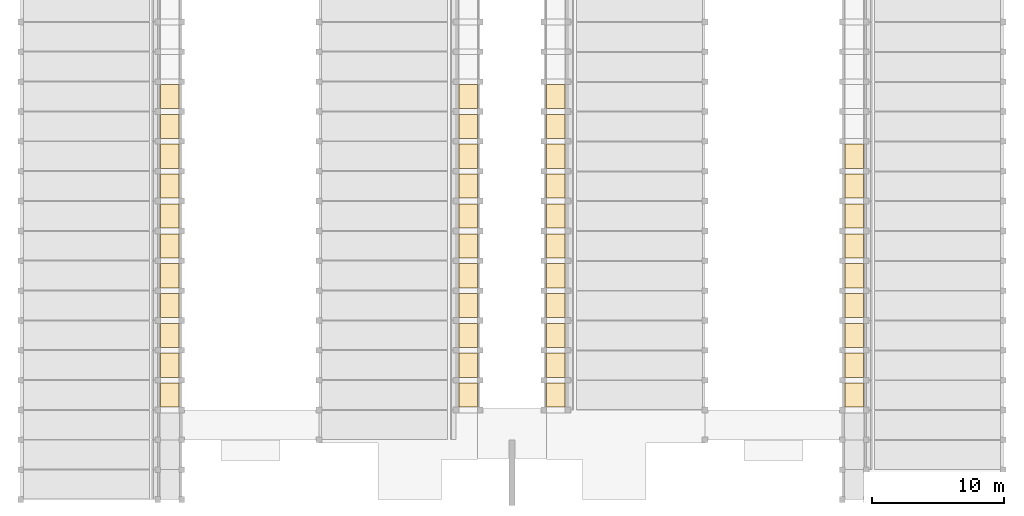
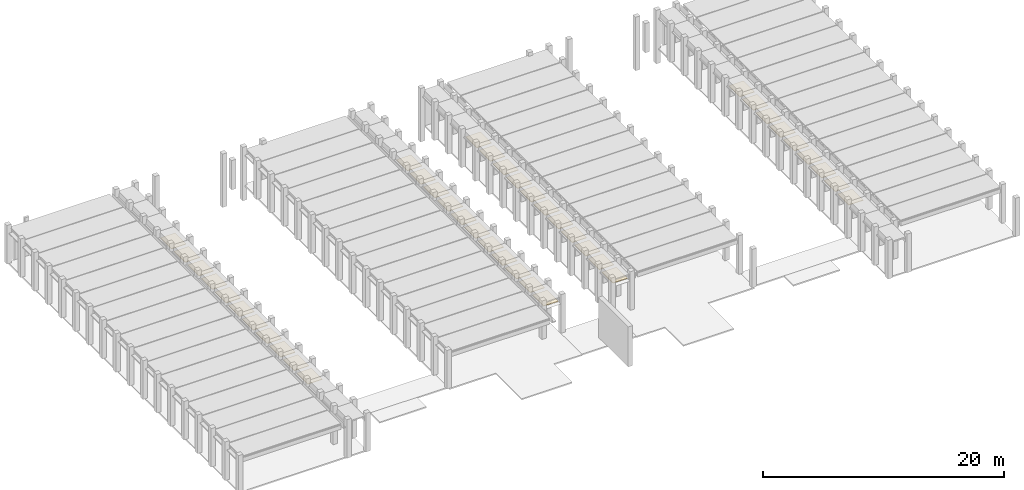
# One storey, part 19 of 21: 42 coverings.
"""IFC2X3 building model written with IfcOpenShell, lengths in millimetres."""

from ifc_helpers import new_model, entity, si_unit, converted_unit, derived_unit, direction, frame, frame_2d, origin, origin_2d_with_axis, place, context, subcontext, project, spatial, rectangle, extrude, material, layer, layer_set, layer_usage, type_object, element, save


model = new_model("IFC2X3")

# Units and contexts
model_context = context("Model", 3, precision=0.01, world=origin(), true_north=direction((6.12303176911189e-17, 1.0)))
body_context = subcontext(model_context, "Body", "Model", "MODEL_VIEW")
ifc_project = project(units=[si_unit("LENGTHUNIT", "METRE", prefix="MILLI"), si_unit("AREAUNIT", "SQUARE_METRE"), si_unit("VOLUMEUNIT", "CUBIC_METRE"), converted_unit("PLANEANGLEUNIT", "DEGREE", entity("IfcRatioMeasure", 0.0174532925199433), si_unit("PLANEANGLEUNIT", "RADIAN"), dimensions=[0, 0, 0, 0, 0, 0, 0]), si_unit("MASSUNIT", "GRAM", prefix="KILO"), derived_unit("MASSDENSITYUNIT", [(si_unit("MASSUNIT", "GRAM", prefix="KILO"), 1), (si_unit("LENGTHUNIT", "METRE"), -3)]), derived_unit("MOMENTOFINERTIAUNIT", [(si_unit("LENGTHUNIT", "METRE"), 4)]), si_unit("TIMEUNIT", "SECOND"), si_unit("FREQUENCYUNIT", "HERTZ"), si_unit("THERMODYNAMICTEMPERATUREUNIT", "DEGREE_CELSIUS"), derived_unit("THERMALTRANSMITTANCEUNIT", [(si_unit("MASSUNIT", "GRAM", prefix="KILO"), 1), (si_unit("THERMODYNAMICTEMPERATUREUNIT", "KELVIN"), -1), (si_unit("TIMEUNIT", "SECOND"), -3)]), derived_unit("VOLUMETRICFLOWRATEUNIT", [(si_unit("LENGTHUNIT", "METRE"), 3), (si_unit("TIMEUNIT", "SECOND"), -1)]), si_unit("ELECTRICCURRENTUNIT", "AMPERE"), si_unit("ELECTRICVOLTAGEUNIT", "VOLT"), si_unit("POWERUNIT", "WATT"), si_unit("FORCEUNIT", "NEWTON", prefix="KILO"), si_unit("ILLUMINANCEUNIT", "LUX"), si_unit("LUMINOUSFLUXUNIT", "LUMEN"), si_unit("LUMINOUSINTENSITYUNIT", "CANDELA"), derived_unit("USERDEFINED", [(si_unit("MASSUNIT", "GRAM", prefix="KILO"), -1), (si_unit("LENGTHUNIT", "METRE"), -2), (si_unit("TIMEUNIT", "SECOND"), 3), (si_unit("LUMINOUSFLUXUNIT", "LUMEN"), 1)]), derived_unit("LINEARVELOCITYUNIT", [(si_unit("LENGTHUNIT", "METRE"), 1), (si_unit("TIMEUNIT", "SECOND"), -1)]), si_unit("PRESSUREUNIT", "PASCAL"), derived_unit("USERDEFINED", [(si_unit("LENGTHUNIT", "METRE"), -2), (si_unit("MASSUNIT", "GRAM", prefix="KILO"), 1), (si_unit("TIMEUNIT", "SECOND"), -2)]), derived_unit("LINEARFORCEUNIT", [(si_unit("MASSUNIT", "GRAM", prefix="KILO"), 1), (si_unit("LENGTHUNIT", "METRE"), 1), (si_unit("TIMEUNIT", "SECOND"), -2), (si_unit("LENGTHUNIT", "METRE"), -1)]), derived_unit("PLANARFORCEUNIT", [(si_unit("MASSUNIT", "GRAM", prefix="KILO"), 1), (si_unit("LENGTHUNIT", "METRE"), 1), (si_unit("TIMEUNIT", "SECOND"), -2), (si_unit("LENGTHUNIT", "METRE"), -2)])], contexts=[model_context])

# Site, building, storey
site_placement = place(None, frame((10627.5135316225, 21939.0796949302, 0.0)))
site = spatial("IfcSite", under=ifc_project, at=site_placement, Name="Default", CompositionType="ELEMENT")
building_placement = place(site_placement, origin())
building = spatial("IfcBuilding", under=site, at=building_placement, CompositionType="ELEMENT")
storey_placement = place(building_placement, frame((0.0, 0.0, 7320.0)))
storey = spatial("IfcBuildingStorey", under=building, at=storey_placement, Name="R+2", CompositionType="ELEMENT", Elevation=7320.0)

# Coverings
ifc_material_1 = material(Name="Metal Stud Layer")
ifc_layer_1 = layer(ifc_material_1, 45.0)
ifc_material_2 = material(Name="PVC, Flexible")
ifc_layer_2 = layer(ifc_material_2, 12.0)
ifc_layer_set = layer_set([ifc_layer_1, ifc_layer_2], Name="Compound Ceiling:Plain")
ifc_layer_usage_1 = layer_usage(ifc_layer_set, "AXIS3", "POSITIVE", 0.0)
covering_type_1 = type_object("IfcCoveringType", Name="Compound Ceiling:Plain", PredefinedType="CEILING")
covering_1_placement = place(storey_placement, origin())
element("IfcCovering", 1, at=covering_1_placement, inside=storey, type_object=covering_type_1, material=ifc_layer_usage_1, Name="Compound Ceiling:Plain", ObjectType="Compound Ceiling:Plain", PredefinedType="CEILING", context=body_context, shape_type="SweptSolid", body=[
    extrude(rectangle(XDim=1828.30330426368, YDim=1400.00000000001, at=origin_2d_with_axis()), frame((23257.4864683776, 8571.76865293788, 2959.0), z_axis=(0.0, 0.0, 1.0), x_axis=(0.0, -1.0, 0.0)), (0.0, 0.0, 1.0), 57.0),
])
ifc_layer_usage_2 = layer_usage(ifc_layer_set, "AXIS3", "POSITIVE", 0.0)
covering_type_2 = type_object("IfcCoveringType", Name="Compound Ceiling:Plain", PredefinedType="CEILING")
covering_2_placement = place(storey_placement, origin())
element("IfcCovering", 2, at=covering_2_placement, inside=storey, type_object=covering_type_2, material=ifc_layer_usage_2, Name="Compound Ceiling:Plain", ObjectType="Compound Ceiling:Plain", PredefinedType="CEILING", context=body_context, shape_type="SweptSolid", body=[
    extrude(rectangle(XDim=1828.30330426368, YDim=1400.00000000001, at=origin_2d_with_axis()), frame((23257.4864683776, 6311.76865293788, 2959.0), z_axis=(0.0, 0.0, 1.0), x_axis=(0.0, -1.0, 0.0)), (0.0, 0.0, 1.0), 57.0),
])
ifc_layer_usage_3 = layer_usage(ifc_layer_set, "AXIS3", "POSITIVE", 0.0)
covering_type_3 = type_object("IfcCoveringType", Name="Compound Ceiling:Plain", PredefinedType="CEILING")
covering_3_placement = place(storey_placement, origin())
element("IfcCovering", 3, at=covering_3_placement, inside=storey, type_object=covering_type_3, material=ifc_layer_usage_3, Name="Compound Ceiling:Plain", ObjectType="Compound Ceiling:Plain", PredefinedType="CEILING", context=body_context, shape_type="SweptSolid", body=[
    extrude(rectangle(XDim=1828.30330426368, YDim=1400.00000000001, at=origin_2d_with_axis()), frame((23257.4864683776, 4051.76865293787, 2959.0), z_axis=(0.0, 0.0, 1.0), x_axis=(0.0, -1.0, 0.0)), (0.0, 0.0, 1.0), 57.0),
])
ifc_layer_usage_4 = layer_usage(ifc_layer_set, "AXIS3", "POSITIVE", 0.0)
covering_type_4 = type_object("IfcCoveringType", Name="Compound Ceiling:Plain", PredefinedType="CEILING")
covering_4_placement = place(storey_placement, origin())
element("IfcCovering", 4, at=covering_4_placement, inside=storey, type_object=covering_type_4, material=ifc_layer_usage_4, Name="Compound Ceiling:Plain", ObjectType="Compound Ceiling:Plain", PredefinedType="CEILING", context=body_context, shape_type="SweptSolid", body=[
    extrude(rectangle(XDim=1828.30330426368, YDim=1400.00000000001, at=origin_2d_with_axis()), frame((23257.4864683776, 1791.76865293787, 2959.0), z_axis=(0.0, 0.0, 1.0), x_axis=(0.0, -1.0, 0.0)), (0.0, 0.0, 1.0), 57.0),
])
ifc_layer_usage_5 = layer_usage(ifc_layer_set, "AXIS3", "POSITIVE", 0.0)
covering_type_5 = type_object("IfcCoveringType", Name="Compound Ceiling:Plain", PredefinedType="CEILING")
covering_5_placement = place(storey_placement, origin())
element("IfcCovering", 5, at=covering_5_placement, inside=storey, type_object=covering_type_5, material=ifc_layer_usage_5, Name="Compound Ceiling:Plain", ObjectType="Compound Ceiling:Plain", PredefinedType="CEILING", context=body_context, shape_type="SweptSolid", body=[
    extrude(rectangle(XDim=1828.30330426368, YDim=1400.00000000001, at=origin_2d_with_axis()), frame((23257.4864683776, -468.231347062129, 2959.0), z_axis=(0.0, 0.0, 1.0), x_axis=(0.0, -1.0, 0.0)), (0.0, 0.0, 1.0), 57.0),
])
ifc_layer_usage_6 = layer_usage(ifc_layer_set, "AXIS3", "POSITIVE", 0.0)
covering_type_6 = type_object("IfcCoveringType", Name="Compound Ceiling:Plain", PredefinedType="CEILING")
covering_6_placement = place(storey_placement, origin())
element("IfcCovering", 6, at=covering_6_placement, inside=storey, type_object=covering_type_6, material=ifc_layer_usage_6, Name="Compound Ceiling:Plain", ObjectType="Compound Ceiling:Plain", PredefinedType="CEILING", context=body_context, shape_type="SweptSolid", body=[
    extrude(rectangle(XDim=1828.30330426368, YDim=1400.00000000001, at=origin_2d_with_axis()), frame((23257.4864683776, -2728.23134706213, 2959.0), z_axis=(0.0, 0.0, 1.0), x_axis=(0.0, -1.0, 0.0)), (0.0, 0.0, 1.0), 57.0),
])
ifc_layer_usage_7 = layer_usage(ifc_layer_set, "AXIS3", "POSITIVE", 0.0)
covering_type_7 = type_object("IfcCoveringType", Name="Compound Ceiling:Plain", PredefinedType="CEILING")
covering_7_placement = place(storey_placement, origin())
element("IfcCovering", 7, at=covering_7_placement, inside=storey, type_object=covering_type_7, material=ifc_layer_usage_7, Name="Compound Ceiling:Plain", ObjectType="Compound Ceiling:Plain", PredefinedType="CEILING", context=body_context, shape_type="SweptSolid", body=[
    extrude(rectangle(XDim=1828.30330426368, YDim=1400.00000000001, at=origin_2d_with_axis()), frame((23257.4864683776, -4988.23134706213, 2959.0), z_axis=(0.0, 0.0, 1.0), x_axis=(0.0, -1.0, 0.0)), (0.0, 0.0, 1.0), 57.0),
])
ifc_layer_usage_8 = layer_usage(ifc_layer_set, "AXIS3", "POSITIVE", 0.0)
covering_type_8 = type_object("IfcCoveringType", Name="Compound Ceiling:Plain", PredefinedType="CEILING")
covering_8_placement = place(storey_placement, origin())
element("IfcCovering", 8, at=covering_8_placement, inside=storey, type_object=covering_type_8, material=ifc_layer_usage_8, Name="Compound Ceiling:Plain", ObjectType="Compound Ceiling:Plain", PredefinedType="CEILING", context=body_context, shape_type="SweptSolid", body=[
    extrude(rectangle(XDim=1828.30330426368, YDim=1400.00000000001, at=origin_2d_with_axis()), frame((23257.4864683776, -7248.23134706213, 2959.0), z_axis=(0.0, 0.0, 1.0), x_axis=(0.0, -1.0, 0.0)), (0.0, 0.0, 1.0), 57.0),
])
ifc_layer_usage_9 = layer_usage(ifc_layer_set, "AXIS3", "POSITIVE", 0.0)
covering_type_9 = type_object("IfcCoveringType", Name="Compound Ceiling:Plain", PredefinedType="CEILING")
covering_9_placement = place(storey_placement, origin())
element("IfcCovering", 9, at=covering_9_placement, inside=storey, type_object=covering_type_9, material=ifc_layer_usage_9, Name="Compound Ceiling:Plain", ObjectType="Compound Ceiling:Plain", PredefinedType="CEILING", context=body_context, shape_type="SweptSolid", body=[
    extrude(rectangle(XDim=1828.30330426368, YDim=1400.00000000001, at=origin_2d_with_axis()), frame((23257.4864683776, -9508.23134706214, 2959.0), z_axis=(0.0, 0.0, 1.0), x_axis=(0.0, -1.0, 0.0)), (0.0, 0.0, 1.0), 57.0),
])
ifc_layer_usage_10 = layer_usage(ifc_layer_set, "AXIS3", "POSITIVE", 0.0)
covering_type_10 = type_object("IfcCoveringType", Name="Compound Ceiling:Plain", PredefinedType="CEILING")
covering_10_placement = place(storey_placement, origin())
element("IfcCovering", 10, at=covering_10_placement, inside=storey, type_object=covering_type_10, material=ifc_layer_usage_10, Name="Compound Ceiling:Plain", ObjectType="Compound Ceiling:Plain", PredefinedType="CEILING", context=body_context, shape_type="SweptSolid", body=[
    extrude(rectangle(XDim=1828.30330426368, YDim=1400.00000000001, at=frame_2d((-1.08002495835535e-12, 0.0), x_axis=(1.0, 0.0))), frame((23257.4864683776, -11768.2313470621, 2959.0), z_axis=(0.0, 0.0, 1.0), x_axis=(0.0, -1.0, 0.0)), (0.0, 0.0, 1.0), 57.0),
])
ifc_layer_usage_11 = layer_usage(ifc_layer_set, "AXIS3", "POSITIVE", 0.0)
covering_type_11 = type_object("IfcCoveringType", Name="Compound Ceiling:Plain", PredefinedType="CEILING")
covering_11_placement = place(storey_placement, origin())
element("IfcCovering", 11, at=covering_11_placement, inside=storey, type_object=covering_type_11, material=ifc_layer_usage_11, Name="Compound Ceiling:Plain", ObjectType="Compound Ceiling:Plain", PredefinedType="CEILING", context=body_context, shape_type="SweptSolid", body=[
    extrude(rectangle(XDim=1828.30330426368, YDim=1400.00000000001, at=frame_2d((-1.08002495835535e-12, 0.0), x_axis=(1.0, 0.0))), frame((23257.4864683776, -14028.2313470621, 2959.0), z_axis=(0.0, 0.0, 1.0), x_axis=(0.0, -1.0, 0.0)), (0.0, 0.0, 1.0), 57.0),
])
ifc_layer_usage_12 = layer_usage(ifc_layer_set, "AXIS3", "POSITIVE", 0.0)
covering_type_12 = type_object("IfcCoveringType", Name="Compound Ceiling:Plain", PredefinedType="CEILING")
covering_12_placement = place(storey_placement, origin())
element("IfcCovering", 12, at=covering_12_placement, inside=storey, type_object=covering_type_12, material=ifc_layer_usage_12, Name="Compound Ceiling:Plain", ObjectType="Compound Ceiling:Plain", PredefinedType="CEILING", context=body_context, shape_type="SweptSolid", body=[
    extrude(rectangle(XDim=1828.30330426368, YDim=1400.00000000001, at=origin_2d_with_axis()), frame((667.486468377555, 8571.76865293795, 2959.0), z_axis=(0.0, 0.0, 1.0), x_axis=(0.0, -1.0, 0.0)), (0.0, 0.0, 1.0), 57.0),
])
ifc_layer_usage_13 = layer_usage(ifc_layer_set, "AXIS3", "POSITIVE", 0.0)
covering_type_13 = type_object("IfcCoveringType", Name="Compound Ceiling:Plain", PredefinedType="CEILING")
covering_13_placement = place(storey_placement, origin())
element("IfcCovering", 13, at=covering_13_placement, inside=storey, type_object=covering_type_13, material=ifc_layer_usage_13, Name="Compound Ceiling:Plain", ObjectType="Compound Ceiling:Plain", PredefinedType="CEILING", context=body_context, shape_type="SweptSolid", body=[
    extrude(rectangle(XDim=1828.30330426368, YDim=1400.00000000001, at=origin_2d_with_axis()), frame((667.486468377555, 6311.76865293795, 2959.0), z_axis=(0.0, 0.0, 1.0), x_axis=(0.0, -1.0, 0.0)), (0.0, 0.0, 1.0), 57.0),
])
ifc_layer_usage_14 = layer_usage(ifc_layer_set, "AXIS3", "POSITIVE", 0.0)
covering_type_14 = type_object("IfcCoveringType", Name="Compound Ceiling:Plain", PredefinedType="CEILING")
covering_14_placement = place(storey_placement, origin())
element("IfcCovering", 14, at=covering_14_placement, inside=storey, type_object=covering_type_14, material=ifc_layer_usage_14, Name="Compound Ceiling:Plain", ObjectType="Compound Ceiling:Plain", PredefinedType="CEILING", context=body_context, shape_type="SweptSolid", body=[
    extrude(rectangle(XDim=1828.30330426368, YDim=1400.00000000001, at=origin_2d_with_axis()), frame((667.486468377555, 4051.76865293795, 2959.0), z_axis=(0.0, 0.0, 1.0), x_axis=(0.0, -1.0, 0.0)), (0.0, 0.0, 1.0), 57.0),
])
ifc_layer_usage_15 = layer_usage(ifc_layer_set, "AXIS3", "POSITIVE", 0.0)
covering_type_15 = type_object("IfcCoveringType", Name="Compound Ceiling:Plain", PredefinedType="CEILING")
covering_15_placement = place(storey_placement, origin())
element("IfcCovering", 15, at=covering_15_placement, inside=storey, type_object=covering_type_15, material=ifc_layer_usage_15, Name="Compound Ceiling:Plain", ObjectType="Compound Ceiling:Plain", PredefinedType="CEILING", context=body_context, shape_type="SweptSolid", body=[
    extrude(rectangle(XDim=1828.30330426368, YDim=1400.00000000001, at=origin_2d_with_axis()), frame((667.486468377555, 1791.76865293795, 2959.0), z_axis=(0.0, 0.0, 1.0), x_axis=(0.0, -1.0, 0.0)), (0.0, 0.0, 1.0), 57.0),
])
ifc_layer_usage_16 = layer_usage(ifc_layer_set, "AXIS3", "POSITIVE", 0.0)
covering_type_16 = type_object("IfcCoveringType", Name="Compound Ceiling:Plain", PredefinedType="CEILING")
covering_16_placement = place(storey_placement, origin())
element("IfcCovering", 16, at=covering_16_placement, inside=storey, type_object=covering_type_16, material=ifc_layer_usage_16, Name="Compound Ceiling:Plain", ObjectType="Compound Ceiling:Plain", PredefinedType="CEILING", context=body_context, shape_type="SweptSolid", body=[
    extrude(rectangle(XDim=1828.30330426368, YDim=1400.00000000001, at=origin_2d_with_axis()), frame((667.486468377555, -468.231347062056, 2959.0), z_axis=(0.0, 0.0, 1.0), x_axis=(0.0, -1.0, 0.0)), (0.0, 0.0, 1.0), 57.0),
])
ifc_layer_usage_17 = layer_usage(ifc_layer_set, "AXIS3", "POSITIVE", 0.0)
covering_type_17 = type_object("IfcCoveringType", Name="Compound Ceiling:Plain", PredefinedType="CEILING")
covering_17_placement = place(storey_placement, origin())
element("IfcCovering", 17, at=covering_17_placement, inside=storey, type_object=covering_type_17, material=ifc_layer_usage_17, Name="Compound Ceiling:Plain", ObjectType="Compound Ceiling:Plain", PredefinedType="CEILING", context=body_context, shape_type="SweptSolid", body=[
    extrude(rectangle(XDim=1828.30330426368, YDim=1400.00000000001, at=origin_2d_with_axis()), frame((667.486468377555, -2728.23134706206, 2959.0), z_axis=(0.0, 0.0, 1.0), x_axis=(0.0, -1.0, 0.0)), (0.0, 0.0, 1.0), 57.0),
])
ifc_layer_usage_18 = layer_usage(ifc_layer_set, "AXIS3", "POSITIVE", 0.0)
covering_type_18 = type_object("IfcCoveringType", Name="Compound Ceiling:Plain", PredefinedType="CEILING")
covering_18_placement = place(storey_placement, origin())
element("IfcCovering", 18, at=covering_18_placement, inside=storey, type_object=covering_type_18, material=ifc_layer_usage_18, Name="Compound Ceiling:Plain", ObjectType="Compound Ceiling:Plain", PredefinedType="CEILING", context=body_context, shape_type="SweptSolid", body=[
    extrude(rectangle(XDim=1828.30330426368, YDim=1400.00000000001, at=origin_2d_with_axis()), frame((667.486468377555, -4988.23134706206, 2959.0), z_axis=(0.0, 0.0, 1.0), x_axis=(0.0, -1.0, 0.0)), (0.0, 0.0, 1.0), 57.0),
])
ifc_layer_usage_19 = layer_usage(ifc_layer_set, "AXIS3", "POSITIVE", 0.0)
covering_type_19 = type_object("IfcCoveringType", Name="Compound Ceiling:Plain", PredefinedType="CEILING")
covering_19_placement = place(storey_placement, origin())
element("IfcCovering", 19, at=covering_19_placement, inside=storey, type_object=covering_type_19, material=ifc_layer_usage_19, Name="Compound Ceiling:Plain", ObjectType="Compound Ceiling:Plain", PredefinedType="CEILING", context=body_context, shape_type="SweptSolid", body=[
    extrude(rectangle(XDim=1828.30330426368, YDim=1400.00000000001, at=origin_2d_with_axis()), frame((667.486468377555, -7248.23134706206, 2959.0), z_axis=(0.0, 0.0, 1.0), x_axis=(0.0, -1.0, 0.0)), (0.0, 0.0, 1.0), 57.0),
])
ifc_layer_usage_20 = layer_usage(ifc_layer_set, "AXIS3", "POSITIVE", 0.0)
covering_type_20 = type_object("IfcCoveringType", Name="Compound Ceiling:Plain", PredefinedType="CEILING")
covering_20_placement = place(storey_placement, origin())
element("IfcCovering", 20, at=covering_20_placement, inside=storey, type_object=covering_type_20, material=ifc_layer_usage_20, Name="Compound Ceiling:Plain", ObjectType="Compound Ceiling:Plain", PredefinedType="CEILING", context=body_context, shape_type="SweptSolid", body=[
    extrude(rectangle(XDim=1828.30330426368, YDim=1400.00000000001, at=origin_2d_with_axis()), frame((667.486468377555, -9508.23134706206, 2959.0), z_axis=(0.0, 0.0, 1.0), x_axis=(0.0, -1.0, 0.0)), (0.0, 0.0, 1.0), 57.0),
])
ifc_layer_usage_21 = layer_usage(ifc_layer_set, "AXIS3", "POSITIVE", 0.0)
covering_type_21 = type_object("IfcCoveringType", Name="Compound Ceiling:Plain", PredefinedType="CEILING")
covering_21_placement = place(storey_placement, origin())
element("IfcCovering", 21, at=covering_21_placement, inside=storey, type_object=covering_type_21, material=ifc_layer_usage_21, Name="Compound Ceiling:Plain", ObjectType="Compound Ceiling:Plain", PredefinedType="CEILING", context=body_context, shape_type="SweptSolid", body=[
    extrude(rectangle(XDim=1828.30330426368, YDim=1400.00000000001, at=frame_2d((-1.08002495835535e-12, 0.0), x_axis=(1.0, 0.0))), frame((667.486468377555, -11768.2313470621, 2959.0), z_axis=(0.0, 0.0, 1.0), x_axis=(0.0, -1.0, 0.0)), (0.0, 0.0, 1.0), 57.0),
])
ifc_layer_usage_22 = layer_usage(ifc_layer_set, "AXIS3", "POSITIVE", 0.0)
covering_type_22 = type_object("IfcCoveringType", Name="Compound Ceiling:Plain", PredefinedType="CEILING")
covering_22_placement = place(storey_placement, origin())
element("IfcCovering", 22, at=covering_22_placement, inside=storey, type_object=covering_type_22, material=ifc_layer_usage_22, Name="Compound Ceiling:Plain", ObjectType="Compound Ceiling:Plain", PredefinedType="CEILING", context=body_context, shape_type="SweptSolid", body=[
    extrude(rectangle(XDim=1828.30330426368, YDim=1400.00000000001, at=frame_2d((-1.08002495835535e-12, 0.0), x_axis=(1.0, 0.0))), frame((667.486468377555, -14028.2313470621, 2959.0), z_axis=(0.0, 0.0, 1.0), x_axis=(0.0, -1.0, 0.0)), (0.0, 0.0, 1.0), 57.0),
])
ifc_layer_usage_23 = layer_usage(ifc_layer_set, "AXIS3", "POSITIVE", 0.0)
covering_type_23 = type_object("IfcCoveringType", Name="Compound Ceiling:Plain", PredefinedType="CEILING")
covering_23_placement = place(storey_placement, origin())
element("IfcCovering", 23, at=covering_23_placement, inside=storey, type_object=covering_type_23, material=ifc_layer_usage_23, Name="Compound Ceiling:Plain", ObjectType="Compound Ceiling:Plain", PredefinedType="CEILING", context=body_context, shape_type="SweptSolid", body=[
    extrude(rectangle(XDim=1400.00000000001, YDim=1828.30330426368, at=frame_2d((0.0, 1.08002495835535e-12), x_axis=(1.0, 0.0))), frame((29897.4864683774, 8571.76865293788, 2959.0), z_axis=(0.0, 0.0, 1.0), x_axis=(-1.0, 0.0, 0.0)), (0.0, 0.0, 1.0), 57.0),
])
ifc_layer_usage_24 = layer_usage(ifc_layer_set, "AXIS3", "POSITIVE", 0.0)
covering_type_24 = type_object("IfcCoveringType", Name="Compound Ceiling:Plain", PredefinedType="CEILING")
covering_24_placement = place(storey_placement, origin())
element("IfcCovering", 24, at=covering_24_placement, inside=storey, type_object=covering_type_24, material=ifc_layer_usage_24, Name="Compound Ceiling:Plain", ObjectType="Compound Ceiling:Plain", PredefinedType="CEILING", context=body_context, shape_type="SweptSolid", body=[
    extrude(rectangle(XDim=1400.00000000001, YDim=1828.30330426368, at=frame_2d((0.0, -1.08002495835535e-12), x_axis=(1.0, 0.0))), frame((29897.4864683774, 6311.76865293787, 2959.0), z_axis=(0.0, 0.0, 1.0), x_axis=(-1.0, 0.0, 0.0)), (0.0, 0.0, 1.0), 57.0),
])
ifc_layer_usage_25 = layer_usage(ifc_layer_set, "AXIS3", "POSITIVE", 0.0)
covering_type_25 = type_object("IfcCoveringType", Name="Compound Ceiling:Plain", PredefinedType="CEILING")
covering_25_placement = place(storey_placement, origin())
element("IfcCovering", 25, at=covering_25_placement, inside=storey, type_object=covering_type_25, material=ifc_layer_usage_25, Name="Compound Ceiling:Plain", ObjectType="Compound Ceiling:Plain", PredefinedType="CEILING", context=body_context, shape_type="SweptSolid", body=[
    extrude(rectangle(XDim=1400.00000000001, YDim=1828.30330426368, at=origin_2d_with_axis()), frame((29897.4864683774, 4051.76865293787, 2959.0), z_axis=(0.0, 0.0, 1.0), x_axis=(-1.0, 0.0, 0.0)), (0.0, 0.0, 1.0), 57.0),
])
ifc_layer_usage_26 = layer_usage(ifc_layer_set, "AXIS3", "POSITIVE", 0.0)
covering_type_26 = type_object("IfcCoveringType", Name="Compound Ceiling:Plain", PredefinedType="CEILING")
covering_26_placement = place(storey_placement, origin())
element("IfcCovering", 26, at=covering_26_placement, inside=storey, type_object=covering_type_26, material=ifc_layer_usage_26, Name="Compound Ceiling:Plain", ObjectType="Compound Ceiling:Plain", PredefinedType="CEILING", context=body_context, shape_type="SweptSolid", body=[
    extrude(rectangle(XDim=1400.00000000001, YDim=1828.30330426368, at=origin_2d_with_axis()), frame((29897.4864683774, 1791.76865293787, 2959.0), z_axis=(0.0, 0.0, 1.0), x_axis=(-1.0, 0.0, 0.0)), (0.0, 0.0, 1.0), 57.0),
])
ifc_layer_usage_27 = layer_usage(ifc_layer_set, "AXIS3", "POSITIVE", 0.0)
covering_type_27 = type_object("IfcCoveringType", Name="Compound Ceiling:Plain", PredefinedType="CEILING")
covering_27_placement = place(storey_placement, origin())
element("IfcCovering", 27, at=covering_27_placement, inside=storey, type_object=covering_type_27, material=ifc_layer_usage_27, Name="Compound Ceiling:Plain", ObjectType="Compound Ceiling:Plain", PredefinedType="CEILING", context=body_context, shape_type="SweptSolid", body=[
    extrude(rectangle(XDim=1400.00000000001, YDim=1828.30330426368, at=origin_2d_with_axis()), frame((29897.4864683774, -468.231347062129, 2959.0), z_axis=(0.0, 0.0, 1.0), x_axis=(-1.0, 0.0, 0.0)), (0.0, 0.0, 1.0), 57.0),
])
ifc_layer_usage_28 = layer_usage(ifc_layer_set, "AXIS3", "POSITIVE", 0.0)
covering_type_28 = type_object("IfcCoveringType", Name="Compound Ceiling:Plain", PredefinedType="CEILING")
covering_28_placement = place(storey_placement, origin())
element("IfcCovering", 28, at=covering_28_placement, inside=storey, type_object=covering_type_28, material=ifc_layer_usage_28, Name="Compound Ceiling:Plain", ObjectType="Compound Ceiling:Plain", PredefinedType="CEILING", context=body_context, shape_type="SweptSolid", body=[
    extrude(rectangle(XDim=1400.00000000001, YDim=1828.30330426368, at=origin_2d_with_axis()), frame((29897.4864683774, -2728.23134706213, 2959.0), z_axis=(0.0, 0.0, 1.0), x_axis=(-1.0, 0.0, 0.0)), (0.0, 0.0, 1.0), 57.0),
])
ifc_layer_usage_29 = layer_usage(ifc_layer_set, "AXIS3", "POSITIVE", 0.0)
covering_type_29 = type_object("IfcCoveringType", Name="Compound Ceiling:Plain", PredefinedType="CEILING")
covering_29_placement = place(storey_placement, origin())
element("IfcCovering", 29, at=covering_29_placement, inside=storey, type_object=covering_type_29, material=ifc_layer_usage_29, Name="Compound Ceiling:Plain", ObjectType="Compound Ceiling:Plain", PredefinedType="CEILING", context=body_context, shape_type="SweptSolid", body=[
    extrude(rectangle(XDim=1400.00000000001, YDim=1828.30330426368, at=origin_2d_with_axis()), frame((29897.4864683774, -4988.23134706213, 2959.0), z_axis=(0.0, 0.0, 1.0), x_axis=(-1.0, 0.0, 0.0)), (0.0, 0.0, 1.0), 57.0),
])
ifc_layer_usage_30 = layer_usage(ifc_layer_set, "AXIS3", "POSITIVE", 0.0)
covering_type_30 = type_object("IfcCoveringType", Name="Compound Ceiling:Plain", PredefinedType="CEILING")
covering_30_placement = place(storey_placement, origin())
element("IfcCovering", 30, at=covering_30_placement, inside=storey, type_object=covering_type_30, material=ifc_layer_usage_30, Name="Compound Ceiling:Plain", ObjectType="Compound Ceiling:Plain", PredefinedType="CEILING", context=body_context, shape_type="SweptSolid", body=[
    extrude(rectangle(XDim=1400.00000000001, YDim=1828.30330426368, at=frame_2d((0.0, -1.08002495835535e-12), x_axis=(1.0, 0.0))), frame((29897.4864683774, -7248.23134706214, 2959.0), z_axis=(0.0, 0.0, 1.0), x_axis=(-1.0, 0.0, 0.0)), (0.0, 0.0, 1.0), 57.0),
])
ifc_layer_usage_31 = layer_usage(ifc_layer_set, "AXIS3", "POSITIVE", 0.0)
covering_type_31 = type_object("IfcCoveringType", Name="Compound Ceiling:Plain", PredefinedType="CEILING")
covering_31_placement = place(storey_placement, origin())
element("IfcCovering", 31, at=covering_31_placement, inside=storey, type_object=covering_type_31, material=ifc_layer_usage_31, Name="Compound Ceiling:Plain", ObjectType="Compound Ceiling:Plain", PredefinedType="CEILING", context=body_context, shape_type="SweptSolid", body=[
    extrude(rectangle(XDim=1400.00000000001, YDim=1828.30330426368, at=frame_2d((0.0, 1.08002495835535e-12), x_axis=(1.0, 0.0))), frame((29897.4864683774, -9508.23134706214, 2959.0), z_axis=(0.0, 0.0, 1.0), x_axis=(-1.0, 0.0, 0.0)), (0.0, 0.0, 1.0), 57.0),
])
ifc_layer_usage_32 = layer_usage(ifc_layer_set, "AXIS3", "POSITIVE", 0.0)
covering_type_32 = type_object("IfcCoveringType", Name="Compound Ceiling:Plain", PredefinedType="CEILING")
covering_32_placement = place(storey_placement, origin())
element("IfcCovering", 32, at=covering_32_placement, inside=storey, type_object=covering_type_32, material=ifc_layer_usage_32, Name="Compound Ceiling:Plain", ObjectType="Compound Ceiling:Plain", PredefinedType="CEILING", context=body_context, shape_type="SweptSolid", body=[
    extrude(rectangle(XDim=1400.00000000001, YDim=1828.30330426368, at=frame_2d((0.0, -1.08002495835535e-12), x_axis=(1.0, 0.0))), frame((29897.4864683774, -11768.2313470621, 2959.0), z_axis=(0.0, 0.0, 1.0), x_axis=(-1.0, 0.0, 0.0)), (0.0, 0.0, 1.0), 57.0),
])
ifc_layer_usage_33 = layer_usage(ifc_layer_set, "AXIS3", "POSITIVE", 0.0)
covering_type_33 = type_object("IfcCoveringType", Name="Compound Ceiling:Plain", PredefinedType="CEILING")
covering_33_placement = place(storey_placement, origin())
element("IfcCovering", 33, at=covering_33_placement, inside=storey, type_object=covering_type_33, material=ifc_layer_usage_33, Name="Compound Ceiling:Plain", ObjectType="Compound Ceiling:Plain", PredefinedType="CEILING", context=body_context, shape_type="SweptSolid", body=[
    extrude(rectangle(XDim=1400.00000000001, YDim=1828.30330426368, at=frame_2d((0.0, 1.08002495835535e-12), x_axis=(1.0, 0.0))), frame((29897.4864683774, -14028.2313470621, 2959.0), z_axis=(0.0, 0.0, 1.0), x_axis=(-1.0, 0.0, 0.0)), (0.0, 0.0, 1.0), 57.0),
])
ifc_layer_usage_34 = layer_usage(ifc_layer_set, "AXIS3", "POSITIVE", 0.0)
covering_type_34 = type_object("IfcCoveringType", Name="Compound Ceiling:Plain", PredefinedType="CEILING")
covering_34_placement = place(storey_placement, origin())
element("IfcCovering", 34, at=covering_34_placement, inside=storey, type_object=covering_type_34, material=ifc_layer_usage_34, Name="Compound Ceiling:Plain", ObjectType="Compound Ceiling:Plain", PredefinedType="CEILING", context=body_context, shape_type="SweptSolid", body=[
    extrude(rectangle(XDim=1400.00000000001, YDim=1828.30330426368, at=origin_2d_with_axis()), frame((52487.4864683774, 4051.76865293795, 2959.0), z_axis=(0.0, 0.0, 1.0), x_axis=(-1.0, 0.0, 0.0)), (0.0, 0.0, 1.0), 57.0),
])
ifc_layer_usage_35 = layer_usage(ifc_layer_set, "AXIS3", "POSITIVE", 0.0)
covering_type_35 = type_object("IfcCoveringType", Name="Compound Ceiling:Plain", PredefinedType="CEILING")
covering_35_placement = place(storey_placement, origin())
element("IfcCovering", 35, at=covering_35_placement, inside=storey, type_object=covering_type_35, material=ifc_layer_usage_35, Name="Compound Ceiling:Plain", ObjectType="Compound Ceiling:Plain", PredefinedType="CEILING", context=body_context, shape_type="SweptSolid", body=[
    extrude(rectangle(XDim=1400.00000000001, YDim=1828.30330426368, at=origin_2d_with_axis()), frame((52487.4864683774, 1791.76865293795, 2959.0), z_axis=(0.0, 0.0, 1.0), x_axis=(-1.0, 0.0, 0.0)), (0.0, 0.0, 1.0), 57.0),
])
ifc_layer_usage_36 = layer_usage(ifc_layer_set, "AXIS3", "POSITIVE", 0.0)
covering_type_36 = type_object("IfcCoveringType", Name="Compound Ceiling:Plain", PredefinedType="CEILING")
covering_36_placement = place(storey_placement, origin())
element("IfcCovering", 36, at=covering_36_placement, inside=storey, type_object=covering_type_36, material=ifc_layer_usage_36, Name="Compound Ceiling:Plain", ObjectType="Compound Ceiling:Plain", PredefinedType="CEILING", context=body_context, shape_type="SweptSolid", body=[
    extrude(rectangle(XDim=1400.00000000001, YDim=1828.30330426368, at=origin_2d_with_axis()), frame((52487.4864683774, -468.231347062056, 2959.0), z_axis=(0.0, 0.0, 1.0), x_axis=(-1.0, 0.0, 0.0)), (0.0, 0.0, 1.0), 57.0),
])
ifc_layer_usage_37 = layer_usage(ifc_layer_set, "AXIS3", "POSITIVE", 0.0)
covering_type_37 = type_object("IfcCoveringType", Name="Compound Ceiling:Plain", PredefinedType="CEILING")
covering_37_placement = place(storey_placement, origin())
element("IfcCovering", 37, at=covering_37_placement, inside=storey, type_object=covering_type_37, material=ifc_layer_usage_37, Name="Compound Ceiling:Plain", ObjectType="Compound Ceiling:Plain", PredefinedType="CEILING", context=body_context, shape_type="SweptSolid", body=[
    extrude(rectangle(XDim=1400.00000000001, YDim=1828.30330426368, at=origin_2d_with_axis()), frame((52487.4864683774, -2728.23134706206, 2959.0), z_axis=(0.0, 0.0, 1.0), x_axis=(-1.0, 0.0, 0.0)), (0.0, 0.0, 1.0), 57.0),
])
ifc_layer_usage_38 = layer_usage(ifc_layer_set, "AXIS3", "POSITIVE", 0.0)
covering_type_38 = type_object("IfcCoveringType", Name="Compound Ceiling:Plain", PredefinedType="CEILING")
covering_38_placement = place(storey_placement, origin())
element("IfcCovering", 38, at=covering_38_placement, inside=storey, type_object=covering_type_38, material=ifc_layer_usage_38, Name="Compound Ceiling:Plain", ObjectType="Compound Ceiling:Plain", PredefinedType="CEILING", context=body_context, shape_type="SweptSolid", body=[
    extrude(rectangle(XDim=1400.00000000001, YDim=1828.30330426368, at=origin_2d_with_axis()), frame((52487.4864683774, -4988.23134706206, 2959.0), z_axis=(0.0, 0.0, 1.0), x_axis=(-1.0, 0.0, 0.0)), (0.0, 0.0, 1.0), 57.0),
])
ifc_layer_usage_39 = layer_usage(ifc_layer_set, "AXIS3", "POSITIVE", 0.0)
covering_type_39 = type_object("IfcCoveringType", Name="Compound Ceiling:Plain", PredefinedType="CEILING")
covering_39_placement = place(storey_placement, origin())
element("IfcCovering", 39, at=covering_39_placement, inside=storey, type_object=covering_type_39, material=ifc_layer_usage_39, Name="Compound Ceiling:Plain", ObjectType="Compound Ceiling:Plain", PredefinedType="CEILING", context=body_context, shape_type="SweptSolid", body=[
    extrude(rectangle(XDim=1400.00000000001, YDim=1828.30330426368, at=frame_2d((0.0, 1.08002495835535e-12), x_axis=(1.0, 0.0))), frame((52487.4864683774, -7248.23134706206, 2959.0), z_axis=(0.0, 0.0, 1.0), x_axis=(-1.0, 0.0, 0.0)), (0.0, 0.0, 1.0), 57.0),
])
ifc_layer_usage_40 = layer_usage(ifc_layer_set, "AXIS3", "POSITIVE", 0.0)
covering_type_40 = type_object("IfcCoveringType", Name="Compound Ceiling:Plain", PredefinedType="CEILING")
covering_40_placement = place(storey_placement, origin())
element("IfcCovering", 40, at=covering_40_placement, inside=storey, type_object=covering_type_40, material=ifc_layer_usage_40, Name="Compound Ceiling:Plain", ObjectType="Compound Ceiling:Plain", PredefinedType="CEILING", context=body_context, shape_type="SweptSolid", body=[
    extrude(rectangle(XDim=1400.00000000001, YDim=1828.30330426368, at=frame_2d((0.0, -1.08002495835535e-12), x_axis=(1.0, 0.0))), frame((52487.4864683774, -9508.23134706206, 2959.0), z_axis=(0.0, 0.0, 1.0), x_axis=(-1.0, 0.0, 0.0)), (0.0, 0.0, 1.0), 57.0),
])
ifc_layer_usage_41 = layer_usage(ifc_layer_set, "AXIS3", "POSITIVE", 0.0)
covering_type_41 = type_object("IfcCoveringType", Name="Compound Ceiling:Plain", PredefinedType="CEILING")
covering_41_placement = place(storey_placement, origin())
element("IfcCovering", 41, at=covering_41_placement, inside=storey, type_object=covering_type_41, material=ifc_layer_usage_41, Name="Compound Ceiling:Plain", ObjectType="Compound Ceiling:Plain", PredefinedType="CEILING", context=body_context, shape_type="SweptSolid", body=[
    extrude(rectangle(XDim=1400.00000000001, YDim=1828.30330426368, at=frame_2d((0.0, 1.08002495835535e-12), x_axis=(1.0, 0.0))), frame((52487.4864683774, -11768.2313470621, 2959.0), z_axis=(0.0, 0.0, 1.0), x_axis=(-1.0, 0.0, 0.0)), (0.0, 0.0, 1.0), 57.0),
])
ifc_layer_usage_42 = layer_usage(ifc_layer_set, "AXIS3", "POSITIVE", 0.0)
covering_type_42 = type_object("IfcCoveringType", Name="Compound Ceiling:Plain", PredefinedType="CEILING")
covering_42_placement = place(storey_placement, origin())
element("IfcCovering", 42, at=covering_42_placement, inside=storey, type_object=covering_type_42, material=ifc_layer_usage_42, Name="Compound Ceiling:Plain", ObjectType="Compound Ceiling:Plain", PredefinedType="CEILING", context=body_context, shape_type="SweptSolid", body=[
    extrude(rectangle(XDim=1400.00000000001, YDim=1828.30330426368, at=frame_2d((0.0, -1.08002495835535e-12), x_axis=(1.0, 0.0))), frame((52487.4864683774, -14028.2313470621, 2959.0), z_axis=(0.0, 0.0, 1.0), x_axis=(-1.0, 0.0, 0.0)), (0.0, 0.0, 1.0), 57.0),
])

save(model, "model.ifc")
